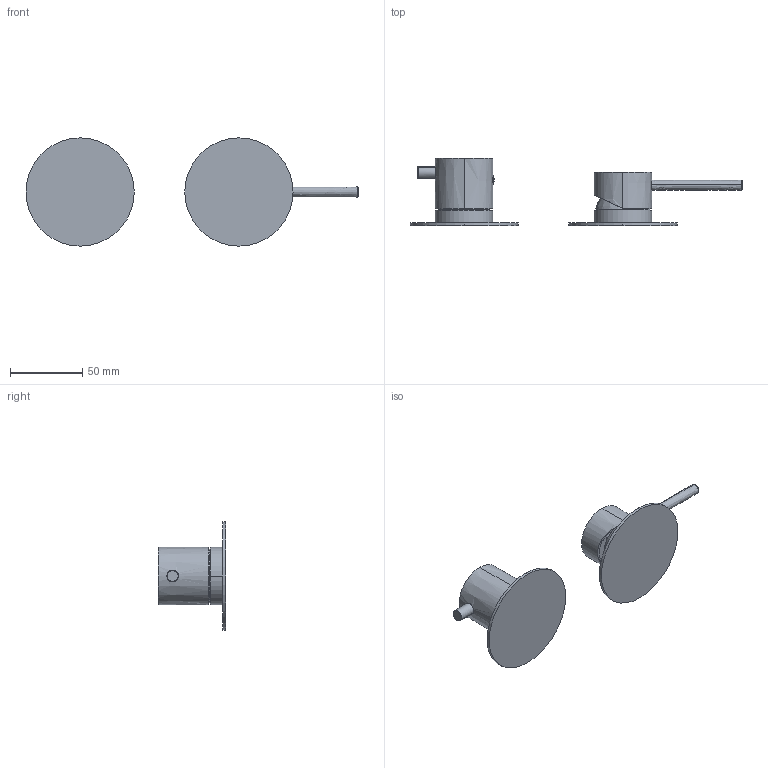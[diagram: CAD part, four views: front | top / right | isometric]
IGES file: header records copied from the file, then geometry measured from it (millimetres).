
Start section:  PTC IGES file: 69553V3.igs
Global section: file name: 69553V3.igs; native system: Creo Parametric by PTC Inc.; preprocessor: 2022014; author: carloff; organization: Unknown; date: 20250214.150149; units: millimetre
Bounding box: 230 x 46.8 x 75 mm (x, y, z)
Surface area: 37201.9 mm2 (no closed solid volume)
Topology: 0 solids, 0 shells, 83 faces, 362 edges, 360 vertices
Faces by surface type: revolution 60, bspline 23
